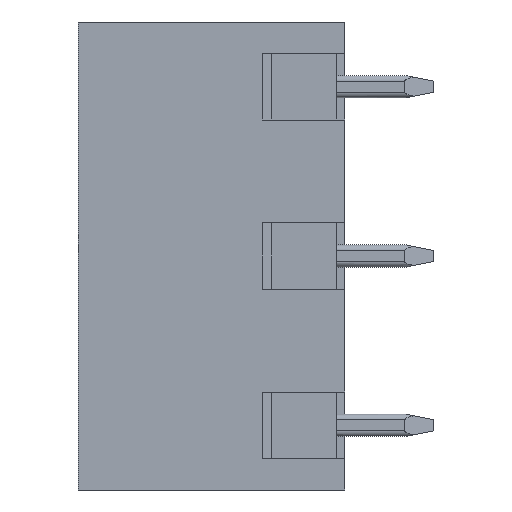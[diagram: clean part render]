
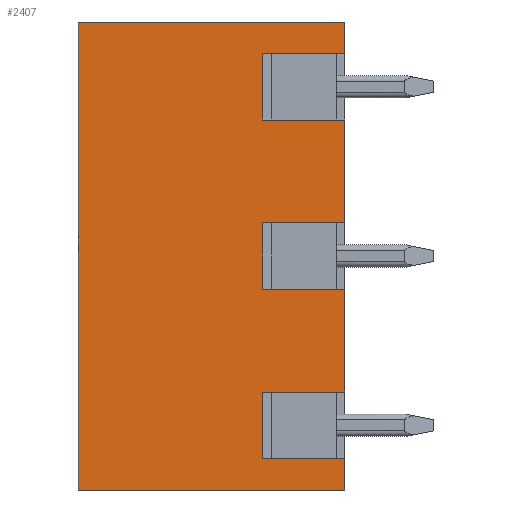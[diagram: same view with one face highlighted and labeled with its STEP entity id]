
A CAD part, left-side view. The second image highlights one B-rep face of the part: STEP entity #2407.
In plain terms, the highlighted planar face has unit normal (-1, 0, 0).
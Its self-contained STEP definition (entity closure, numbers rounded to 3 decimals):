
#1=DIRECTION('',(0.,1.,0.));
#2=VECTOR('',#1,12.);
#3=CARTESIAN_POINT('',(0.,0.,-10.26));
#4=LINE('',#3,#2);
#5=DIRECTION('',(0.,0.,-1.));
#6=VECTOR('',#5,1.41);
#7=CARTESIAN_POINT('',(0.,0.,10.8));
#8=LINE('',#7,#6);
#9=DIRECTION('',(0.,1.,0.));
#10=VECTOR('',#9,3.7);
#11=CARTESIAN_POINT('',(0.,0.,9.39));
#12=LINE('',#11,#10);
#13=DIRECTION('',(0.,0.,-1.));
#14=VECTOR('',#13,3.);
#15=CARTESIAN_POINT('',(0.,3.7,9.39));
#16=LINE('',#15,#14);
#17=DIRECTION('',(0.,-1.,0.));
#18=VECTOR('',#17,3.7);
#19=CARTESIAN_POINT('',(0.,3.7,6.39));
#20=LINE('',#19,#18);
#21=DIRECTION('',(0.,0.,-1.));
#22=VECTOR('',#21,4.62);
#23=CARTESIAN_POINT('',(0.,0.,6.39));
#24=LINE('',#23,#22);
#25=DIRECTION('',(0.,1.,0.));
#26=VECTOR('',#25,3.7);
#27=CARTESIAN_POINT('',(0.,0.,1.77));
#28=LINE('',#27,#26);
#29=DIRECTION('',(0.,0.,-1.));
#30=VECTOR('',#29,3.);
#31=CARTESIAN_POINT('',(0.,3.7,1.77));
#32=LINE('',#31,#30);
#33=DIRECTION('',(0.,-1.,0.));
#34=VECTOR('',#33,3.7);
#35=CARTESIAN_POINT('',(0.,3.7,-1.23));
#36=LINE('',#35,#34);
#37=DIRECTION('',(0.,0.,-1.));
#38=VECTOR('',#37,4.62);
#39=CARTESIAN_POINT('',(0.,0.,-1.23));
#40=LINE('',#39,#38);
#41=DIRECTION('',(0.,1.,0.));
#42=VECTOR('',#41,3.7);
#43=CARTESIAN_POINT('',(0.,0.,-5.85));
#44=LINE('',#43,#42);
#45=DIRECTION('',(0.,0.,-1.));
#46=VECTOR('',#45,3.);
#47=CARTESIAN_POINT('',(0.,3.7,-5.85));
#48=LINE('',#47,#46);
#49=DIRECTION('',(0.,-1.,0.));
#50=VECTOR('',#49,3.7);
#51=CARTESIAN_POINT('',(0.,3.7,-8.85));
#52=LINE('',#51,#50);
#53=DIRECTION('',(0.,0.,-1.));
#54=VECTOR('',#53,1.41);
#55=CARTESIAN_POINT('',(0.,0.,-8.85));
#56=LINE('',#55,#54);
#245=DIRECTION('',(0.,1.,0.));
#246=VECTOR('',#245,12.);
#247=CARTESIAN_POINT('',(0.,0.,10.8));
#248=LINE('',#247,#246);
#293=DIRECTION('',(0.,0.,-1.));
#294=VECTOR('',#293,21.06);
#295=CARTESIAN_POINT('',(0.,12.,10.8));
#296=LINE('',#295,#294);
#1900=CARTESIAN_POINT('',(0.,0.,-10.26));
#1901=CARTESIAN_POINT('',(0.,12.,-10.26));
#1902=VERTEX_POINT('',#1900);
#1903=VERTEX_POINT('',#1901);
#1904=CARTESIAN_POINT('',(0.,12.,10.8));
#1905=VERTEX_POINT('',#1904);
#1906=CARTESIAN_POINT('',(0.,0.,10.8));
#1907=VERTEX_POINT('',#1906);
#1908=CARTESIAN_POINT('',(0.,0.,9.39));
#1909=VERTEX_POINT('',#1908);
#1910=CARTESIAN_POINT('',(0.,3.7,9.39));
#1911=VERTEX_POINT('',#1910);
#1912=CARTESIAN_POINT('',(0.,3.7,6.39));
#1913=VERTEX_POINT('',#1912);
#1914=CARTESIAN_POINT('',(0.,0.,6.39));
#1915=VERTEX_POINT('',#1914);
#1916=CARTESIAN_POINT('',(0.,0.,1.77));
#1917=VERTEX_POINT('',#1916);
#1918=CARTESIAN_POINT('',(0.,3.7,1.77));
#1919=VERTEX_POINT('',#1918);
#1920=CARTESIAN_POINT('',(0.,3.7,-1.23));
#1921=VERTEX_POINT('',#1920);
#1922=CARTESIAN_POINT('',(0.,0.,-1.23));
#1923=VERTEX_POINT('',#1922);
#1924=CARTESIAN_POINT('',(0.,0.,-5.85));
#1925=VERTEX_POINT('',#1924);
#1926=CARTESIAN_POINT('',(0.,3.7,-5.85));
#1927=VERTEX_POINT('',#1926);
#1928=CARTESIAN_POINT('',(0.,3.7,-8.85));
#1929=VERTEX_POINT('',#1928);
#1930=CARTESIAN_POINT('',(0.,0.,-8.85));
#1931=VERTEX_POINT('',#1930);
#2368=CARTESIAN_POINT('',(0.,12.,-11.16));
#2369=DIRECTION('',(-1.,0.,0.));
#2370=DIRECTION('',(0.,-1.,0.));
#2371=AXIS2_PLACEMENT_3D('',#2368,#2369,#2370);
#2372=PLANE('',#2371);
#2374=ORIENTED_EDGE('',*,*,#2373,.T.);
#2376=ORIENTED_EDGE('',*,*,#2375,.F.);
#2378=ORIENTED_EDGE('',*,*,#2377,.F.);
#2380=ORIENTED_EDGE('',*,*,#2379,.T.);
#2382=ORIENTED_EDGE('',*,*,#2381,.T.);
#2384=ORIENTED_EDGE('',*,*,#2383,.T.);
#2386=ORIENTED_EDGE('',*,*,#2385,.T.);
#2388=ORIENTED_EDGE('',*,*,#2387,.T.);
#2390=ORIENTED_EDGE('',*,*,#2389,.T.);
#2392=ORIENTED_EDGE('',*,*,#2391,.T.);
#2394=ORIENTED_EDGE('',*,*,#2393,.T.);
#2396=ORIENTED_EDGE('',*,*,#2395,.T.);
#2398=ORIENTED_EDGE('',*,*,#2397,.T.);
#2400=ORIENTED_EDGE('',*,*,#2399,.T.);
#2402=ORIENTED_EDGE('',*,*,#2401,.T.);
#2404=ORIENTED_EDGE('',*,*,#2403,.T.);
#2405=EDGE_LOOP('',(#2374,#2376,#2378,#2380,#2382,#2384,#2386,#2388,#2390,#2392,
#2394,#2396,#2398,#2400,#2402,#2404));
#2406=FACE_OUTER_BOUND('',#2405,.F.);
#2407=ADVANCED_FACE('',(#2406),#2372,.T.);
#2373=EDGE_CURVE('',#1902,#1903,#4,.T.);
#2375=EDGE_CURVE('',#1905,#1903,#296,.T.);
#2377=EDGE_CURVE('',#1907,#1905,#248,.T.);
#2379=EDGE_CURVE('',#1907,#1909,#8,.T.);
#2381=EDGE_CURVE('',#1909,#1911,#12,.T.);
#2383=EDGE_CURVE('',#1911,#1913,#16,.T.);
#2385=EDGE_CURVE('',#1913,#1915,#20,.T.);
#2387=EDGE_CURVE('',#1915,#1917,#24,.T.);
#2389=EDGE_CURVE('',#1917,#1919,#28,.T.);
#2391=EDGE_CURVE('',#1919,#1921,#32,.T.);
#2393=EDGE_CURVE('',#1921,#1923,#36,.T.);
#2395=EDGE_CURVE('',#1923,#1925,#40,.T.);
#2397=EDGE_CURVE('',#1925,#1927,#44,.T.);
#2399=EDGE_CURVE('',#1927,#1929,#48,.T.);
#2401=EDGE_CURVE('',#1929,#1931,#52,.T.);
#2403=EDGE_CURVE('',#1931,#1902,#56,.T.);
